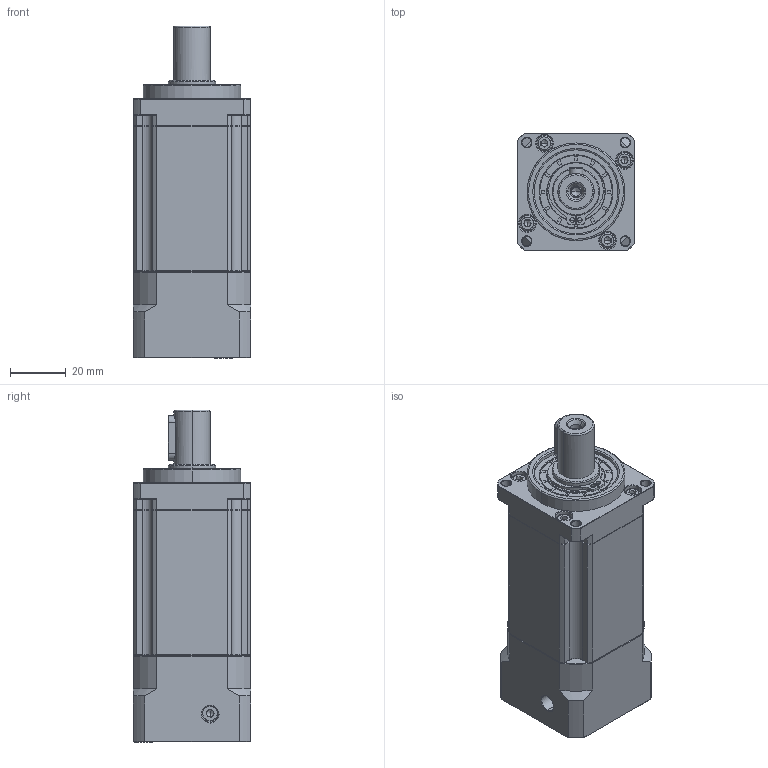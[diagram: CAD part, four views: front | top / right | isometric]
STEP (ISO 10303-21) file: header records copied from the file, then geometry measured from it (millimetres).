
FILE_DESCRIPTION (( 'STEP AP214' ), '1' );
FILE_NAME ('ZB042-D13-L3-P2-8-30-45-M3.STEP', '2023-08-15T11:59:17', ( '' ), ( '' ), 'SwSTEP 2.0', 'SolidWorks 2016', '' );
FILE_SCHEMA (( 'AUTOMOTIVE_DESIGN' ));
Length unit declared in the file: millimetre
Products named in the file (1): ZB042-D13-L3-P2-8-30-45-M3
Bounding box: 42 x 42 x 119 mm (x, y, z)
Volume: 148180.4 mm3; surface area: 31619 mm2
Topology: 6 solids, 6 shells, 2264 faces, 6067 edges, 3898 vertices
Faces by surface type: plane 1098, cylinder 431, bspline 412, cone 303, torus 20
Entity records: 124905 total; most frequent: CARTESIAN_POINT 47009, ORIENTED_EDGE 12074, DIRECTION 9315, EDGE_CURVE 6037, VERTEX_POINT 3898, LINE 3825, VECTOR 3825, AXIS2_PLACEMENT_3D 2745
